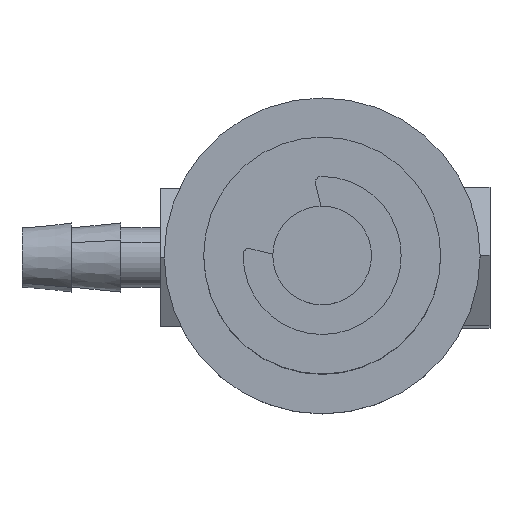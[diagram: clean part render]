
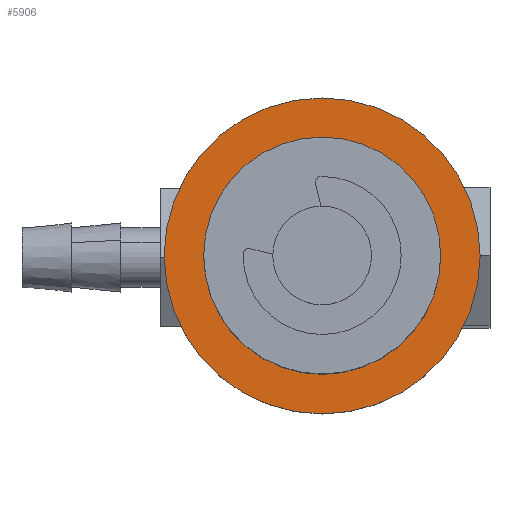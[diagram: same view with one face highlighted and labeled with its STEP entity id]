
A CAD part, top view. The second image highlights one B-rep face of the part: STEP entity #5906.
In plain terms, the highlighted planar face has unit normal (0, 0, 1).
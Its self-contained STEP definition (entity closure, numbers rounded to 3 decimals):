
#228 = CARTESIAN_POINT ( 'NONE',  ( 0.058, -2.101, 20.25 ) ) ;
#281 = DIRECTION ( 'NONE',  ( 0., 0., 1. ) ) ;
#584 = DIRECTION ( 'NONE',  ( -1., 0., 0. ) ) ;
#711 = CARTESIAN_POINT ( 'NONE',  ( -7.942, -2.101, 20.25 ) ) ;
#946 = AXIS2_PLACEMENT_3D ( 'NONE', #7817, #2291, #8740 ) ;
#1012 = CARTESIAN_POINT ( 'NONE',  ( 8.058, -2.101, 20.25 ) ) ;
#1176 = DIRECTION ( 'NONE',  ( 0., 1., 0. ) ) ;
#1365 = CARTESIAN_POINT ( 'NONE',  ( 0.058, -2.101, 20.25 ) ) ;
#1401 = AXIS2_PLACEMENT_3D ( 'NONE', #1365, #7838, #2313 ) ;
#1854 = CARTESIAN_POINT ( 'NONE',  ( 0.058, -8.101, 20.25 ) ) ;
#1966 = CIRCLE ( 'NONE', #7115, 6. ) ;
#2291 = DIRECTION ( 'NONE',  ( 0., 0., 1. ) ) ;
#2302 = AXIS2_PLACEMENT_3D ( 'NONE', #5825, #281, #6757 ) ;
#2313 = DIRECTION ( 'NONE',  ( 0., 1., 0. ) ) ;
#2679 = FACE_BOUND ( 'NONE', #9428, .T. ) ;
#3886 = ORIENTED_EDGE ( 'NONE', *, *, #11503, .T. ) ;
#3888 = VERTEX_POINT ( 'NONE', #711 ) ;
#4015 = ORIENTED_EDGE ( 'NONE', *, *, #5245, .T. ) ;
#5245 = EDGE_CURVE ( 'NONE', #3888, #5756, #5262, .T. ) ;
#5262 = CIRCLE ( 'NONE', #946, 8. ) ;
#5756 = VERTEX_POINT ( 'NONE', #1012 ) ;
#5808 = VERTEX_POINT ( 'NONE', #10260 ) ;
#5825 = CARTESIAN_POINT ( 'NONE',  ( -8.038, -10.197, 20.25 ) ) ;
#5906 = ADVANCED_FACE ( 'NONE', ( #2679, #7589 ), #6710, .T. ) ;
#6117 = DIRECTION ( 'NONE',  ( 0., 0., 1. ) ) ;
#6704 = DIRECTION ( 'NONE',  ( 0., 0., -1. ) ) ;
#6710 = PLANE ( 'NONE',  #2302 ) ;
#6757 = DIRECTION ( 'NONE',  ( 1., 0., 0. ) ) ;
#7115 = AXIS2_PLACEMENT_3D ( 'NONE', #228, #6704, #1176 ) ;
#7189 = EDGE_CURVE ( 'NONE', #5756, #3888, #10326, .T. ) ;
#7327 = AXIS2_PLACEMENT_3D ( 'NONE', #11641, #6117, #584 ) ;
#7589 = FACE_OUTER_BOUND ( 'NONE', #8792, .T. ) ;
#7817 = CARTESIAN_POINT ( 'NONE',  ( 0.058, -2.101, 20.25 ) ) ;
#7838 = DIRECTION ( 'NONE',  ( 0., 0., -1. ) ) ;
#8695 = ORIENTED_EDGE ( 'NONE', *, *, #11988, .T. ) ;
#8740 = DIRECTION ( 'NONE',  ( -1., 0., 0. ) ) ;
#8792 = EDGE_LOOP ( 'NONE', ( #4015, #9104 ) ) ;
#9104 = ORIENTED_EDGE ( 'NONE', *, *, #7189, .T. ) ;
#9428 = EDGE_LOOP ( 'NONE', ( #8695, #3886 ) ) ;
#9955 = VERTEX_POINT ( 'NONE', #1854 ) ;
#10260 = CARTESIAN_POINT ( 'NONE',  ( 0.058, 3.899, 20.25 ) ) ;
#10326 = CIRCLE ( 'NONE', #7327, 8. ) ;
#10330 = CIRCLE ( 'NONE', #1401, 6. ) ;
#11503 = EDGE_CURVE ( 'NONE', #9955, #5808, #1966, .T. ) ;
#11641 = CARTESIAN_POINT ( 'NONE',  ( 0.058, -2.101, 20.25 ) ) ;
#11988 = EDGE_CURVE ( 'NONE', #5808, #9955, #10330, .T. ) ;
